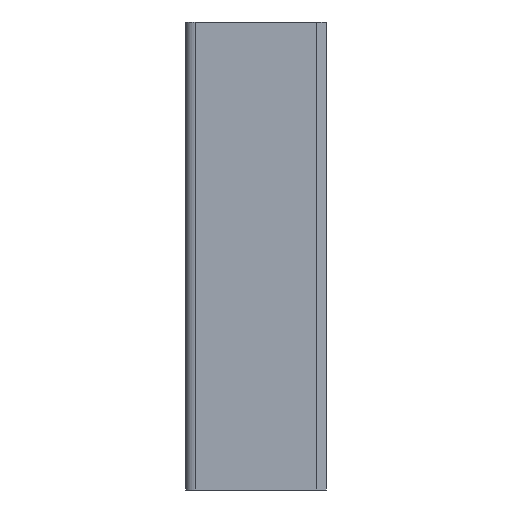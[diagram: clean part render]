
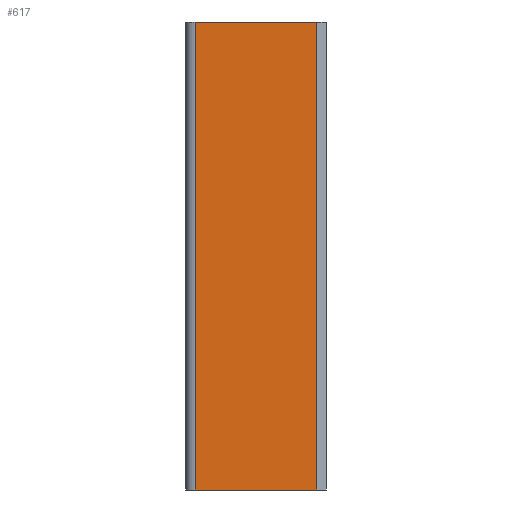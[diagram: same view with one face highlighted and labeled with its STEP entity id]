
A CAD part, left-side view. The second image highlights one B-rep face of the part: STEP entity #617.
In plain terms, the highlighted planar face has unit normal (-1, 0, 0).
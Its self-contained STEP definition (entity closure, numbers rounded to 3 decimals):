
#97=CARTESIAN_POINT('Line Origine',(0.,22.5,0.)) ;
#101=CARTESIAN_POINT('Vertex',(0.,42.,0.)) ;
#103=CARTESIAN_POINT('Vertex',(0.,3.,0.)) ;
#520=CARTESIAN_POINT('Line Origine',(0.,22.5,-150.)) ;
#524=CARTESIAN_POINT('Vertex',(0.,42.,-150.)) ;
#526=CARTESIAN_POINT('Vertex',(0.,3.,-150.)) ;
#596=CARTESIAN_POINT('Axis2P3D Location',(0.,42.,-150.)) ;
#601=CARTESIAN_POINT('Line Origine',(0.,42.,-75.)) ;
#606=CARTESIAN_POINT('Line Origine',(0.,3.,-75.)) ;
#98=DIRECTION('Vector Direction',(0.,-1.,0.)) ;
#521=DIRECTION('Vector Direction',(0.,-1.,0.)) ;
#597=DIRECTION('Axis2P3D Direction',(-1.,0.,0.)) ;
#598=DIRECTION('Axis2P3D XDirection',(0.,0.,1.)) ;
#602=DIRECTION('Vector Direction',(0.,0.,1.)) ;
#607=DIRECTION('Vector Direction',(0.,0.,1.)) ;
#599=AXIS2_PLACEMENT_3D('Plane Axis2P3D',#596,#597,#598) ;
#612=ORIENTED_EDGE('',*,*,#105,.F.) ;
#613=ORIENTED_EDGE('',*,*,#605,.F.) ;
#614=ORIENTED_EDGE('',*,*,#528,.T.) ;
#615=ORIENTED_EDGE('',*,*,#610,.T.) ;
#99=VECTOR('Line Direction',#98,1.) ;
#522=VECTOR('Line Direction',#521,1.) ;
#603=VECTOR('Line Direction',#602,1.) ;
#608=VECTOR('Line Direction',#607,1.) ;
#617=ADVANCED_FACE('A935-15015045',(#616),#600,.T.) ;
#105=EDGE_CURVE('',#102,#104,#100,.T.) ;
#528=EDGE_CURVE('',#525,#527,#523,.T.) ;
#605=EDGE_CURVE('',#525,#102,#604,.T.) ;
#610=EDGE_CURVE('',#527,#104,#609,.T.) ;
#611=EDGE_LOOP('',(#612,#613,#614,#615)) ;
#616=FACE_OUTER_BOUND('',#611,.T.) ;
#100=LINE('Line',#97,#99) ;
#523=LINE('Line',#520,#522) ;
#604=LINE('Line',#601,#603) ;
#609=LINE('Line',#606,#608) ;
#600=PLANE('Plane',#599) ;
#102=VERTEX_POINT('',#101) ;
#104=VERTEX_POINT('',#103) ;
#525=VERTEX_POINT('',#524) ;
#527=VERTEX_POINT('',#526) ;
